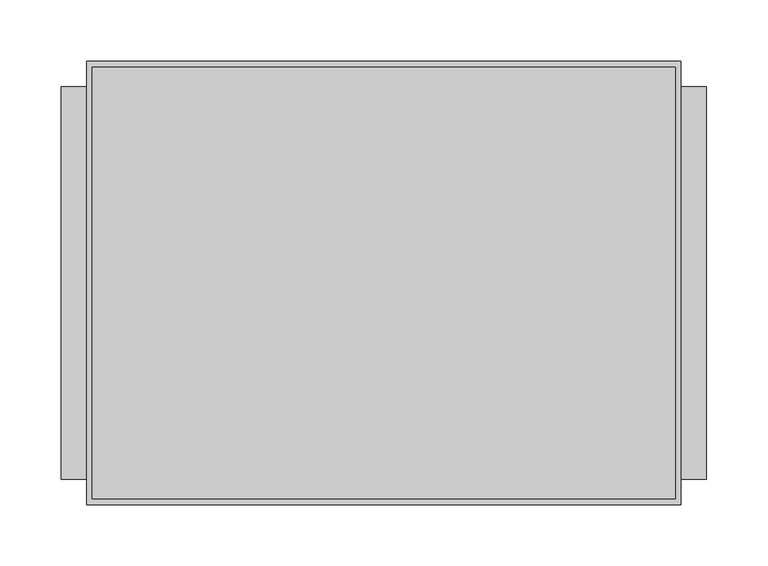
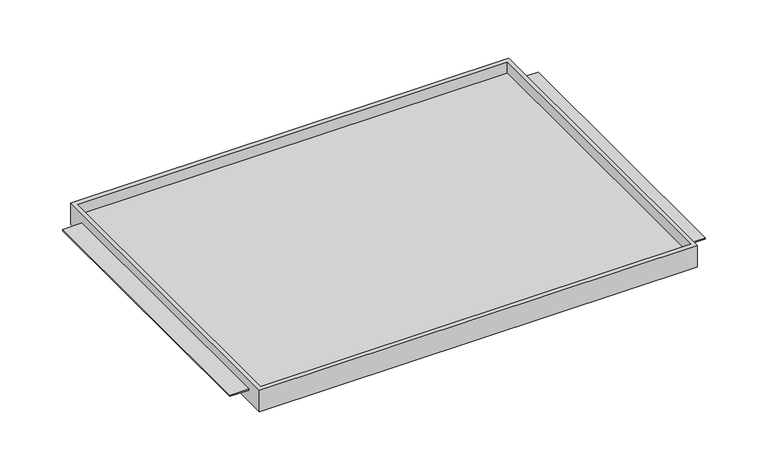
"""IFC4 building model written with IfcOpenShell, lengths in millimetres: furniture geometry."""

import ifcopenshell
import ifcopenshell.guid

model = None  # the IFC model being written
_history = None  # IfcOwnerHistory: only IFC2X3 demands one
_inside = {}  # id of a spatial element -> (the spatial element, [elements in it])
_under = {}  # id of a project, library or spatial element -> (it, [spatial elements below it])
_declared = {}  # id of a project -> (the project, [libraries it declares])
_typed = {}  # id of a type object -> (the type object, [elements of that type])
_made_of = {}  # id of a material, layer set ... -> (it, [elements and type objects made of it])


def new_model(schema):
    """Start an empty IFC model of exactly this schema.

    Asked for "IFC4X3", IfcOpenShell would pick the latest addendum, in which some entities
    have other attributes; the version numbers below select the first issue.
    IFC2X3 requires an IfcOwnerHistory on every rooted entity: one is made here for all.
    """
    global model, _history
    if schema == "IFC4X3":
        model = ifcopenshell.file(schema_version=(4, 3, 0, 0))
    else:
        model = ifcopenshell.file(schema=schema)
    _inside.clear()
    _under.clear()
    _declared.clear()
    _typed.clear()
    _made_of.clear()
    _history = None
    if model.schema == "IFC2X3":
        org = make("IfcOrganization", Name="unknown")
        user = make(
            "IfcPersonAndOrganization",
            ThePerson=make("IfcPerson", FamilyName="unknown"),
            TheOrganization=org,
        )
        app = make(
            "IfcApplication",
            ApplicationDeveloper=org,
            Version="unknown",
            ApplicationFullName="unknown",
            ApplicationIdentifier="unknown",
        )
        _history = make(
            "IfcOwnerHistory",
            OwningUser=user,
            OwningApplication=app,
            ChangeAction="ADDED",
            CreationDate=0,
        )
    return model


def make(cls, **values):
    """One entity of the class cls with the attributes given. An attribute that is None is left unset."""
    return model.create_entity(
        cls, **{name: value for name, value in values.items() if value is not None}
    )


def rooted(cls, **values):
    """An entity with a GlobalId (a new one), such as an element, a storey or a relation."""
    return make(cls, GlobalId=ifcopenshell.guid.new(), OwnerHistory=_history, **values)


def si_unit(unit_type, name, prefix=None):
    """IfcSIUnit, for example si_unit("LENGTHUNIT", "METRE", prefix="MILLI")."""
    return make("IfcSIUnit", UnitType=unit_type, Prefix=prefix, Name=name)


def assignment(units):
    """IfcUnitAssignment: the units of a project."""
    return None if units is None else make("IfcUnitAssignment", Units=units)


def point(xyz):
    """IfcCartesianPoint."""
    return None if xyz is None else make("IfcCartesianPoint", Coordinates=xyz)


def direction(xyz):
    """IfcDirection."""
    return None if xyz is None else make("IfcDirection", DirectionRatios=xyz)


def frame(location, z_axis=None, x_axis=None):
    """IfcAxis2Placement3D, a coordinate frame: its origin and axes. An axis left out is left unset."""
    return make(
        "IfcAxis2Placement3D",
        Location=point(location),
        Axis=direction(z_axis),
        RefDirection=direction(x_axis),
    )


def origin():
    """The frame at (0, 0, 0) with its axes left unset."""
    return frame((0.0, 0.0, 0.0))


def place(relative_to, where):
    """IfcLocalPlacement: puts the frame where relative to a parent placement (None: the world)."""
    return make(
        "IfcLocalPlacement", PlacementRelTo=relative_to, RelativePlacement=where
    )


def context(
    kind, dimensions, precision=None, world=None, true_north=None, identifier=None
):
    """IfcGeometricRepresentationContext, for example the 3D "Model" context."""
    return make(
        "IfcGeometricRepresentationContext",
        ContextIdentifier=identifier,
        ContextType=kind,
        CoordinateSpaceDimension=dimensions,
        Precision=precision,
        WorldCoordinateSystem=world,
        TrueNorth=true_north,
    )


def project(units=None, contexts=None):
    """IfcProject with its units and contexts."""
    return rooted(
        "IfcProject",
        Name="project",
        RepresentationContexts=contexts,
        UnitsInContext=assignment(units),
    )


def spatial(cls, under=None, at=None, **own):
    """A site, building, storey or space (cls), placed at a placement, below another one or the project."""
    s = rooted(cls, ObjectPlacement=at, **own)
    if under is not None:
        _under.setdefault(under.id(), (under, []))[1].append(s)
    return s


def faces_of(points, faces, orient=None, outer=None):
    """IfcFace entities. A face is a list of loops; a loop is a list of indices into points, from 0.

    orient and outer hold one flag for each loop. By default every Orientation is true, the
    first loop of a face is its IfcFaceOuterBound and the others are IfcFaceBound.
    """
    made = []
    for i, loops in enumerate(faces):
        bounds = []
        for j, loop in enumerate(loops):
            is_outer = j == 0 if outer is None else outer[i][j]
            bounds.append(
                make(
                    "IfcFaceOuterBound" if is_outer else "IfcFaceBound",
                    Bound=make("IfcPolyLoop", Polygon=[points[k] for k in loop]),
                    Orientation=True if orient is None else orient[i][j],
                )
            )
        made.append(make("IfcFace", Bounds=bounds))
    return made


def faceted_brep(points, faces, orient=None, outer=None, voids=None):
    """IfcFacetedBrep: a solid bounded by flat faces; with voids (closed shells), ...WithVoids."""
    shared = [point(p) for p in points]
    hull = make("IfcClosedShell", CfsFaces=faces_of(shared, faces, orient, outer))
    if voids is None:
        return make("IfcFacetedBrep", Outer=hull)
    return make(
        "IfcFacetedBrepWithVoids",
        Outer=hull,
        Voids=[
            make(cls, CfsFaces=faces_of(shared, fs, o, b)) for cls, fs, o, b in voids
        ],
    )


def shape(context_of_items, identifier, shape_type, items):
    """IfcShapeRepresentation: the items that make up one representation, for example the "Body"."""
    return make(
        "IfcShapeRepresentation",
        ContextOfItems=context_of_items,
        RepresentationIdentifier=identifier,
        RepresentationType=shape_type,
        Items=items,
    )


def source(mapping_origin, context_of_items, identifier, shape_type, items):
    """IfcRepresentationMap: a shape defined once, which mapped items show again and again."""
    return make(
        "IfcRepresentationMap",
        MappingOrigin=mapping_origin,
        MappedRepresentation=shape(context_of_items, identifier, shape_type, items),
    )


def transform(
    local_origin,
    x_axis=None,
    y_axis=None,
    z_axis=None,
    scale=None,
    scale2=None,
    scale3=None,
    uniform=True,
):
    """IfcCartesianTransformationOperator3D, or its non-uniform kind. x_axis, y_axis, z_axis: its Axis1, 2, 3."""
    if uniform:
        return make(
            "IfcCartesianTransformationOperator3D",
            Axis1=direction(x_axis),
            Axis2=direction(y_axis),
            LocalOrigin=point(local_origin),
            Scale=scale,
            Axis3=direction(z_axis),
        )
    return make(
        "IfcCartesianTransformationOperator3DnonUniform",
        Axis1=direction(x_axis),
        Axis2=direction(y_axis),
        LocalOrigin=point(local_origin),
        Scale=scale,
        Axis3=direction(z_axis),
        Scale2=scale2,
        Scale3=scale3,
    )


def mapped(mapping_source, mapping_target):
    """IfcMappedItem: shows the shape of a source again, moved by a transform."""
    return make(
        "IfcMappedItem", MappingSource=mapping_source, MappingTarget=mapping_target
    )


def made_of(thing, what):
    """Note that an element or type object is made of a material, layer set ...; save() writes the relation."""
    if what is not None:
        _made_of.setdefault(what.id(), (what, []))[1].append(thing)
    return thing


def element(
    cls,
    number,
    at=None,
    inside=None,
    cuts=None,
    type_object=None,
    material=None,
    context=None,
    identifier="Body",
    shape_type=None,
    held_by="IfcProductDefinitionShape",
    body=None,
    shapes=None,
    **own,
):
    """One element of the class cls, such as IfcWall. Its Tag is "e" and its number.

    at: its placement. inside: the storey or other place that contains it. cuts: it is an
    opening in that element (IfcRelVoidsElement). A single representation is given by context,
    identifier, shape_type and body (its items); several are given by shapes. held_by: the class
    of the entity that holds the representations. save() writes the other relations.
    """
    e = rooted(cls, Tag="e%d" % number, ObjectPlacement=at, **own)
    if body is not None:
        shapes = [shape(context, identifier, shape_type, body)]
    if shapes is not None:
        e.Representation = make(held_by, Representations=shapes)
    if inside is not None:
        _inside.setdefault(inside.id(), (inside, []))[1].append(e)
    if cuts is not None:
        rooted(
            "IfcRelVoidsElement", RelatingBuildingElement=cuts, RelatedOpeningElement=e
        )
    if type_object is not None:
        _typed.setdefault(type_object.id(), (type_object, []))[1].append(e)
    return made_of(e, material)


def aggregate(whole, parts):
    """IfcRelAggregates: a whole, such as a stair, and the parts it consists of."""
    return rooted("IfcRelAggregates", RelatingObject=whole, RelatedObjects=parts)


def save(model, path):
    """Write the relations noted so far, then the file.

    IfcRelAggregates (storeys below a building ...), IfcRelContainedInSpatialStructure (elements
    in a storey), IfcRelDefinesByType, IfcRelAssociatesMaterial and IfcRelDeclares: one each for
    every whole, place, type object, material and project.
    """
    for whole, parts in _under.values():
        aggregate(whole, parts)
    for where, things in _inside.values():
        rooted(
            "IfcRelContainedInSpatialStructure",
            RelatedElements=things,
            RelatingStructure=where,
        )
    for kind, things in _typed.values():
        rooted("IfcRelDefinesByType", RelatedObjects=things, RelatingType=kind)
    for what, things in _made_of.values():
        rooted("IfcRelAssociatesMaterial", RelatedObjects=things, RelatingMaterial=what)
    for by, libraries in _declared.values():
        rooted("IfcRelDeclares", RelatingContext=by, RelatedDefinitions=libraries)
    model.write(path)


def furniture_16c4bec0(model_context):
    return source(origin(), model_context, "Body", "Brep", [
        faceted_brep([(-242.7689646, -180.975, 1041.4), (242.7689646, -180.975, 1041.4), (242.7689646, -180.975, 1066.8), (-242.7689646, -180.975, 1066.8), (-242.7689646, 180.975, 1041.4), (-242.7689646, 180.975, 1066.8), (242.7689646, 180.975, 1066.8), (242.7689646, 180.975, 1041.4), (242.7689646, -160.3374879, 1055.7002), (242.7689646, 160.3374879, 1055.7002), (242.7689646, 160.3374879, 1054.1), (242.7689646, -160.3374879, 1054.1), (238.125, -176.2125, 1066.8), (-238.125, -176.2125, 1066.8), (-238.125, 175.91278, 1066.8), (238.125, 175.91278, 1066.8), (-242.7689646, 160.3374879, 1055.7002), (-242.7689646, -160.3374879, 1055.7002), (-242.7689646, -160.3374879, 1054.1), (-242.7689646, 160.3374879, 1054.1), (-238.125, -176.2125, 1054.1), (238.125, -176.2125, 1054.1), (238.125, 175.91278, 1054.1), (-238.125, 175.91278, 1054.1), (-263.525, 160.3374879, 1055.7002), (-263.525, -160.3374879, 1055.7002), (263.525, -160.3374879, 1055.7002), (263.525, 160.3374879, 1055.7002), (-263.525, -160.3374879, 1054.1), (-263.525, 160.3374879, 1054.1), (263.525, -160.3374879, 1054.1), (263.525, 160.3374879, 1054.1)], [[[0, 1, 2, 3]], [[4, 5, 6, 7]], [[1, 0, 4, 7]], [[2, 1, 7, 6], [8, 9, 10, 11]], [[3, 2, 6, 5], [12, 13, 14, 15]], [[0, 3, 5, 4], [16, 17, 18, 19]], [[20, 21, 22, 23]], [[21, 20, 13, 12]], [[22, 21, 12, 15]], [[23, 22, 15, 14]], [[20, 23, 14, 13]], [[16, 24, 25, 17]], [[26, 27, 9, 8]], [[18, 28, 29, 19]], [[30, 11, 10, 31]], [[24, 16, 19, 29]], [[25, 24, 29, 28]], [[17, 25, 28, 18]], [[27, 26, 30, 31]], [[9, 27, 31, 10]], [[26, 8, 11, 30]]]),
    ])


if __name__ == "__main__":
    model = new_model("IFC4")
    model_context = context("Model", 3, world=origin())
    ifc_project = project(units=[si_unit("LENGTHUNIT", "METRE", prefix="MILLI")], contexts=[model_context])
    site = spatial("IfcSite", under=ifc_project)
    building = spatial("IfcBuilding", under=site)
    placement = place(None, origin())
    furniture_shape = furniture_16c4bec0(model_context)
    element("IfcFurniture", 1, ObjectType="HermanMiller_CoStruc_CO203_CTrayShelf : 14\"D x 20\"W", at=placement, inside=building, context=model_context, shape_type="MappedRepresentation", body=[
        mapped(furniture_shape, transform((0.0, 0.0, 0.0), x_axis=(1.0, 0.0, 0.0), y_axis=(0.0, 1.0, 0.0), z_axis=(0.0, 0.0, 1.0))),
    ])
    save(model, "model.ifc")
